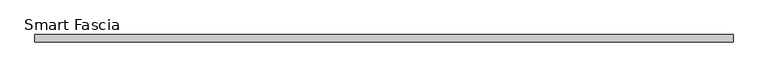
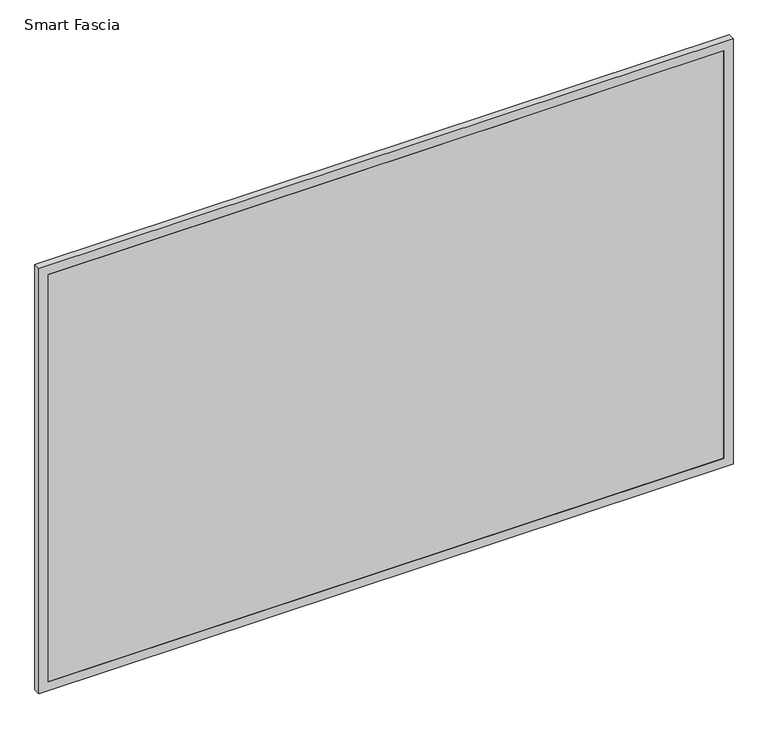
"""IFC4 building model written with IfcOpenShell, lengths in millimetres: proxy geometry, Panel-Fascia-Teknion-Altos-Smart : Smart Fascia."""

from ifc_helpers import new_model, si_unit, frame, origin, place, context, project, spatial, polyline, outline, extrude, source, transform, mapped, element, save


def smart_fascia_17b24632(model_context):
    return source(origin(), model_context, "Body", "SweptSolid", [
        extrude(outline(polyline([(3.175, 1132.8569781), (1216.025, 1132.8569781), (1216.025, -739.1031782), (3.175, -739.1031782), (3.175, 1132.8569781)]), holes=[polyline([(1190.625, 1107.4569781), (28.575, 1107.4569781), (28.575, -713.7031782), (1190.625, -713.7031782), (1190.625, 1107.4569781)])]), frame((0.0, -19.05, 0.0), z_axis=(0.0, 1.0, 0.0), x_axis=(0.0, 0.0, 1.0)), (0.0, 0.0, 1.0), 19.05),
        extrude(outline(polyline([(1107.4569781, -19.05), (-713.7031782, -19.05), (-713.7031782, 0.0), (1107.4569781, 0.0), (1107.4569781, -19.05)])), frame((0.0, 0.0, 28.575), z_axis=(0.0, 0.0, 1.0), x_axis=(1.0, 0.0, 0.0)), (0.0, 0.0, 1.0), 1162.05),
    ])


if __name__ == "__main__":
    model = new_model("IFC4")
    model_context = context("Model", 3, world=origin())
    ifc_project = project(units=[si_unit("LENGTHUNIT", "METRE", prefix="MILLI")], contexts=[model_context])
    site = spatial("IfcSite", under=ifc_project)
    building = spatial("IfcBuilding", under=site)
    placement = place(None, origin())
    smart_fascia_shape = smart_fascia_17b24632(model_context)
    element("IfcBuildingElementProxy", 1, Name="Panel-Fascia-Teknion-Altos-Smart : Smart Fascia", ObjectType="Panel-Fascia-Teknion-Altos-Smart : Smart Fascia", at=placement, inside=building, context=model_context, shape_type="MappedRepresentation", body=[
        mapped(smart_fascia_shape, transform((0.0, 0.0, 0.0), x_axis=(1.0, 0.0, 0.0), y_axis=(0.0, 1.0, 0.0), z_axis=(0.0, 0.0, 1.0))),
    ])
    save(model, "model.ifc")
